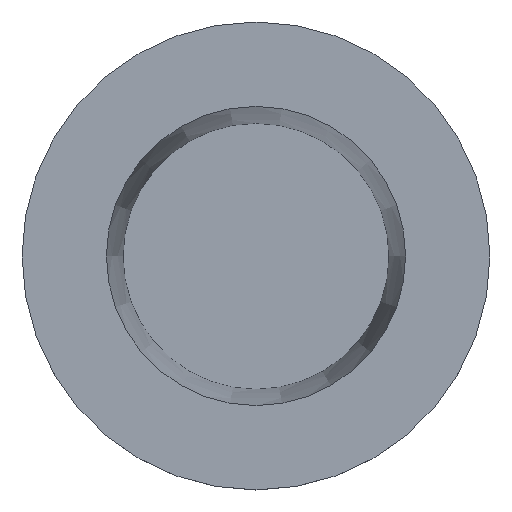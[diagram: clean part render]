
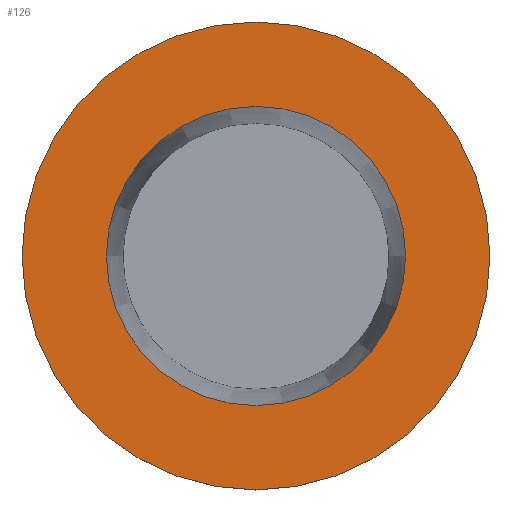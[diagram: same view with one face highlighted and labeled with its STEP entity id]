
A CAD part, top view. The second image highlights one B-rep face of the part: STEP entity #126.
In plain terms, the highlighted planar face has unit normal (0, 0, 1).
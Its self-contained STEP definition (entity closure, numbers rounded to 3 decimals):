
#87=CARTESIAN_POINT('',(17.25,0.,16.));
#88=VERTEX_POINT('',#87);
#95=CARTESIAN_POINT('',(0.,0.,16.));
#96=DIRECTION('',(1.,0.,0.));
#97=DIRECTION('',(0.,0.,1.));
#98=AXIS2_PLACEMENT_3D('',#95,#97,#96);
#99=CIRCLE('',#98,17.25);
#100=EDGE_CURVE('',#88,#88,#99,.T.);
#107=CARTESIAN_POINT('',(0.,0.,16.));
#108=DIRECTION('',(1.,0.,0.));
#109=DIRECTION('',(0.,0.,-1.));
#110=AXIS2_PLACEMENT_3D('',#107,#109,#108);
#111=PLANE('',#110);
#112=ORIENTED_EDGE('',*,*,#100,.F.);
#113=EDGE_LOOP('',(#112));
#114=FACE_OUTER_BOUND('',#113,.F.);
#115=CARTESIAN_POINT('',(11.03,0.,16.));
#116=VERTEX_POINT('',#115);
#117=CARTESIAN_POINT('',(0.,0.,16.));
#118=DIRECTION('',(1.,0.,0.));
#119=DIRECTION('',(0.,0.,1.));
#120=AXIS2_PLACEMENT_3D('',#117,#119,#118);
#121=CIRCLE('',#120,11.03);
#122=EDGE_CURVE('',#116,#116,#121,.T.);
#123=ORIENTED_EDGE('E8',*,*,#122,.T.);
#124=EDGE_LOOP('',(#123));
#125=FACE_BOUND('',#124,.F.);
#126=ADVANCED_FACE('F5',(#114,#125),#111,.F.);
